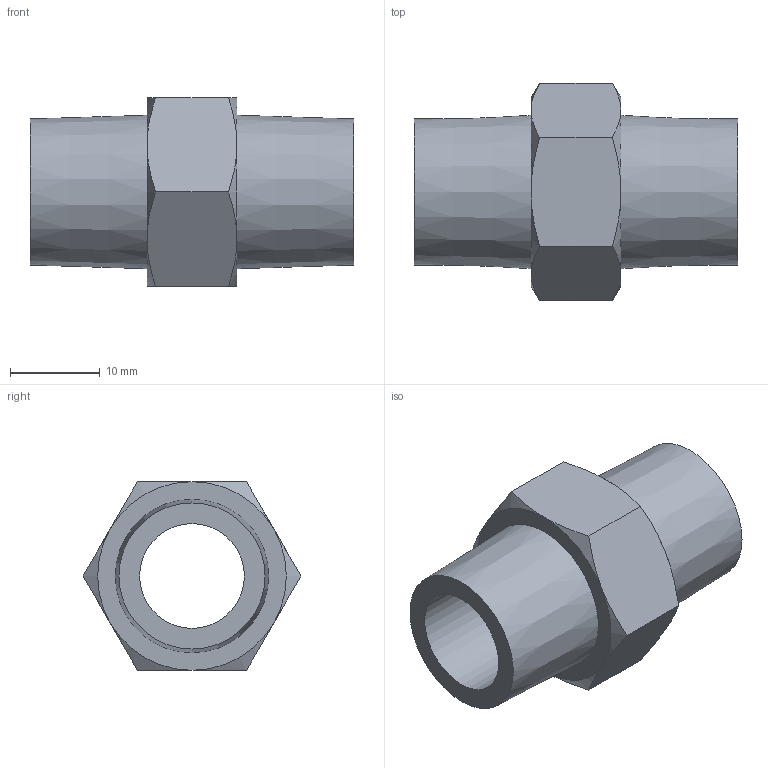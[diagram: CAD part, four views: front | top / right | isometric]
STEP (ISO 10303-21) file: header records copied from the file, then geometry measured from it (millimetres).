
FILE_DESCRIPTION(/* description */ (''),/* implementation_level */ '2;1');
FILE_NAME(/* name */ 'C:\Users\D\Documents\Inventor\各種小物\JIS\ニップル\3／8.stp',/* time_stamp */ '2022-06-22T15:38:17+09:00',/* author */ ('D'),/* organization */ (''),/* preprocessor_version */ 'ST-DEVELOPER v18',/* originating_system */ 'Autodesk Inventor 2020',/* authorisation */ '');
FILE_SCHEMA (('AUTOMOTIVE_DESIGN { 1 0 10303 214 3 1 1 }'));
Length unit declared in the file: millimetre
Products named in the file (1): 1／4
Bounding box: 36 x 24.25 x 21 mm (x, y, z)
Volume: 5630.3 mm3; surface area: 3880.7 mm2
Topology: 1 solids, 1 shells, 25 faces, 55 edges, 34 vertices
Faces by surface type: cone 14, plane 10, cylinder 1
Full cylindrical faces by diameter (mm): 11.662 x1
Entity records: 708 total; most frequent: CARTESIAN_POINT 163, ORIENTED_EDGE 110, DIRECTION 105, EDGE_CURVE 55, AXIS2_PLACEMENT_3D 48, VERTEX_POINT 34, EDGE_LOOP 29, FACE_OUTER_BOUND 25
